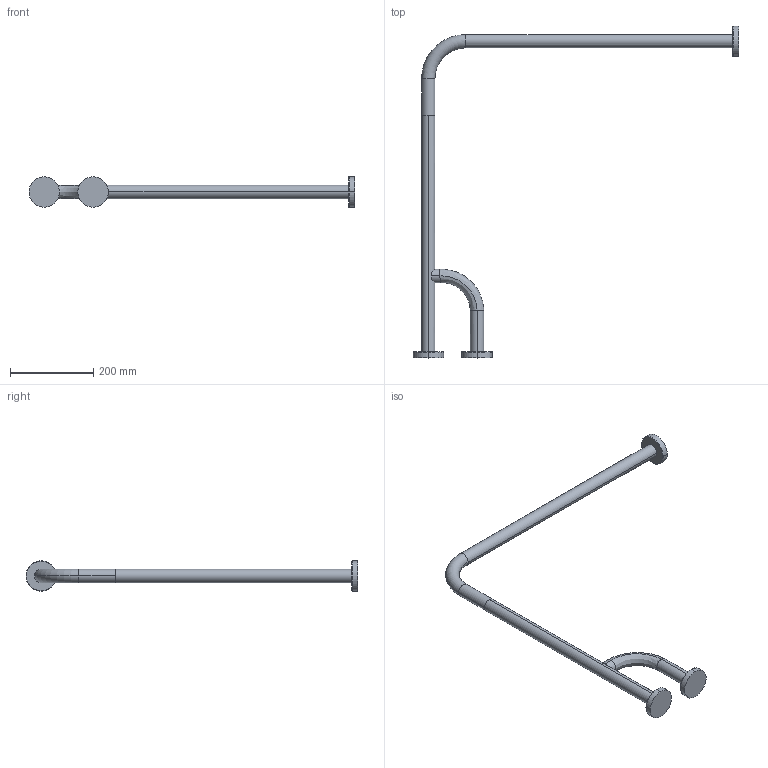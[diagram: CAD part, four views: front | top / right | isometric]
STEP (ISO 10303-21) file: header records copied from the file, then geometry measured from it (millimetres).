
FILE_DESCRIPTION (( 'STEP AP203' ), '1' );
FILE_NAME ('TB200.STEP', '2023-06-05T14:40:06', ( '' ), ( '' ), 'SwSTEP 2.0', 'SolidWorks 2023', '' );
FILE_SCHEMA (( 'CONFIG_CONTROL_DESIGN' ));
Length unit declared in the file: inch
Products named in the file (1): TB200
Bounding box: 781.43 x 796.13 x 73.02 mm (x, y, z)
Volume: 1996416.8 mm3; surface area: 261560.9 mm2
Topology: 3 solids, 3 shells, 40 faces, 76 edges, 46 vertices
Faces by surface type: cylinder 18, plane 12, torus 8, bspline 2
Entity records: 2181 total; most frequent: CARTESIAN_POINT 1279, DIRECTION 194, ORIENTED_EDGE 152, AXIS2_PLACEMENT_3D 87, EDGE_CURVE 76, CIRCLE 48, VERTEX_POINT 46, EDGE_LOOP 44
